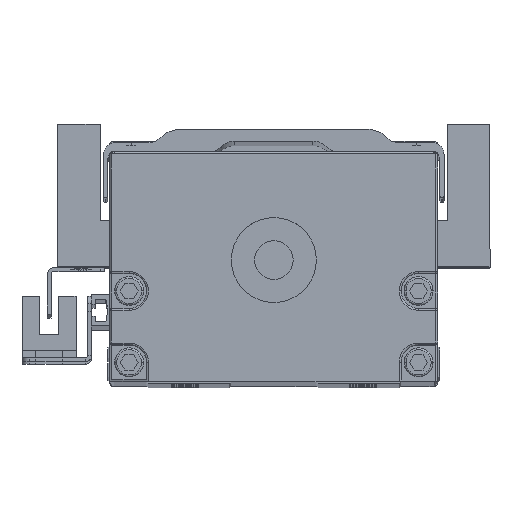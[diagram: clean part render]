
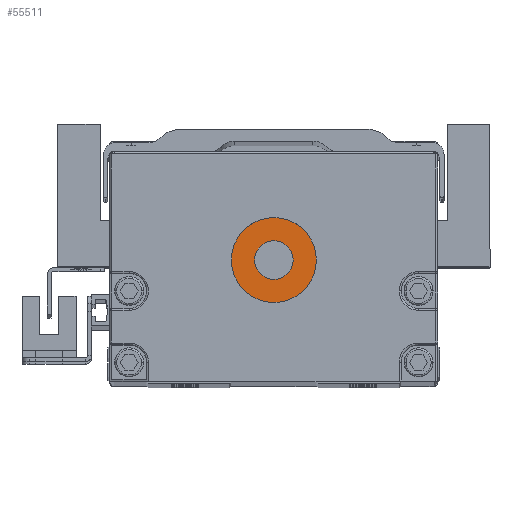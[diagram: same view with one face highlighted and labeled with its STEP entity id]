
A CAD part, top view. The second image highlights one B-rep face of the part: STEP entity #55511.
In plain terms, the highlighted planar face has unit normal (0, 0, 1).
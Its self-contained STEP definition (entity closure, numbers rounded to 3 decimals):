
#856 = VERTEX_POINT ( 'NONE', #41360 ) ;
#1893 = DIRECTION ( 'NONE',  ( 0., 0., 1. ) ) ;
#2397 = FACE_BOUND ( 'NONE', #17085, .T. ) ;
#2474 = CIRCLE ( 'NONE', #13245, 11. ) ;
#3265 = EDGE_CURVE ( 'NONE', #17151, #19822, #2474, .T. ) ;
#5883 = CARTESIAN_POINT ( 'NONE',  ( 0., 32., 649. ) ) ;
#6047 = DIRECTION ( 'NONE',  ( 1., 0., 0. ) ) ;
#6274 = DIRECTION ( 'NONE',  ( 1., 0., 0. ) ) ;
#6783 = AXIS2_PLACEMENT_3D ( 'NONE', #13719, #27895, #9355 ) ;
#7761 = CIRCLE ( 'NONE', #17086, 5. ) ;
#9355 = DIRECTION ( 'NONE',  ( 1., 0., 0. ) ) ;
#9543 = CARTESIAN_POINT ( 'NONE',  ( -11., 32., 649. ) ) ;
#11420 = ORIENTED_EDGE ( 'NONE', *, *, #47578, .F. ) ;
#12506 = DIRECTION ( 'NONE',  ( 1., 0., 0. ) ) ;
#13245 = AXIS2_PLACEMENT_3D ( 'NONE', #57510, #21179, #12506 ) ;
#13341 = CIRCLE ( 'NONE', #6783, 5. ) ;
#13719 = CARTESIAN_POINT ( 'NONE',  ( 0., 32., 649. ) ) ;
#14575 = ORIENTED_EDGE ( 'NONE', *, *, #30213, .F. ) ;
#17085 = EDGE_LOOP ( 'NONE', ( #11420, #14575 ) ) ;
#17086 = AXIS2_PLACEMENT_3D ( 'NONE', #47155, #1893, #6047 ) ;
#17151 = VERTEX_POINT ( 'NONE', #38595 ) ;
#17299 = DIRECTION ( 'NONE',  ( 0., 0., 1. ) ) ;
#19822 = VERTEX_POINT ( 'NONE', #9543 ) ;
#21179 = DIRECTION ( 'NONE',  ( 0., 0., 1. ) ) ;
#21613 = CIRCLE ( 'NONE', #32504, 11. ) ;
#27895 = DIRECTION ( 'NONE',  ( 0., 0., 1. ) ) ;
#30213 = EDGE_CURVE ( 'NONE', #856, #35768, #7761, .T. ) ;
#30319 = DIRECTION ( 'NONE',  ( 1., 0., 0. ) ) ;
#32504 = AXIS2_PLACEMENT_3D ( 'NONE', #5883, #32743, #6274 ) ;
#32743 = DIRECTION ( 'NONE',  ( 0., 0., 1. ) ) ;
#35031 = ORIENTED_EDGE ( 'NONE', *, *, #3265, .T. ) ;
#35768 = VERTEX_POINT ( 'NONE', #56307 ) ;
#36236 = EDGE_CURVE ( 'NONE', #19822, #17151, #21613, .T. ) ;
#38595 = CARTESIAN_POINT ( 'NONE',  ( 11., 32., 649. ) ) ;
#39890 = FACE_OUTER_BOUND ( 'NONE', #57403, .T. ) ;
#41360 = CARTESIAN_POINT ( 'NONE',  ( 5., 32., 649. ) ) ;
#47155 = CARTESIAN_POINT ( 'NONE',  ( 0., 32., 649. ) ) ;
#47578 = EDGE_CURVE ( 'NONE', #35768, #856, #13341, .T. ) ;
#48360 = PLANE ( 'NONE',  #58226 ) ;
#53338 = ORIENTED_EDGE ( 'NONE', *, *, #36236, .T. ) ;
#55511 = ADVANCED_FACE ( 'NONE', ( #39890, #2397 ), #48360, .T. ) ;
#56307 = CARTESIAN_POINT ( 'NONE',  ( -5., 32., 649. ) ) ;
#57375 = CARTESIAN_POINT ( 'NONE',  ( 0., 32., 649. ) ) ;
#57403 = EDGE_LOOP ( 'NONE', ( #35031, #53338 ) ) ;
#57510 = CARTESIAN_POINT ( 'NONE',  ( 0., 32., 649. ) ) ;
#58226 = AXIS2_PLACEMENT_3D ( 'NONE', #57375, #17299, #30319 ) ;
